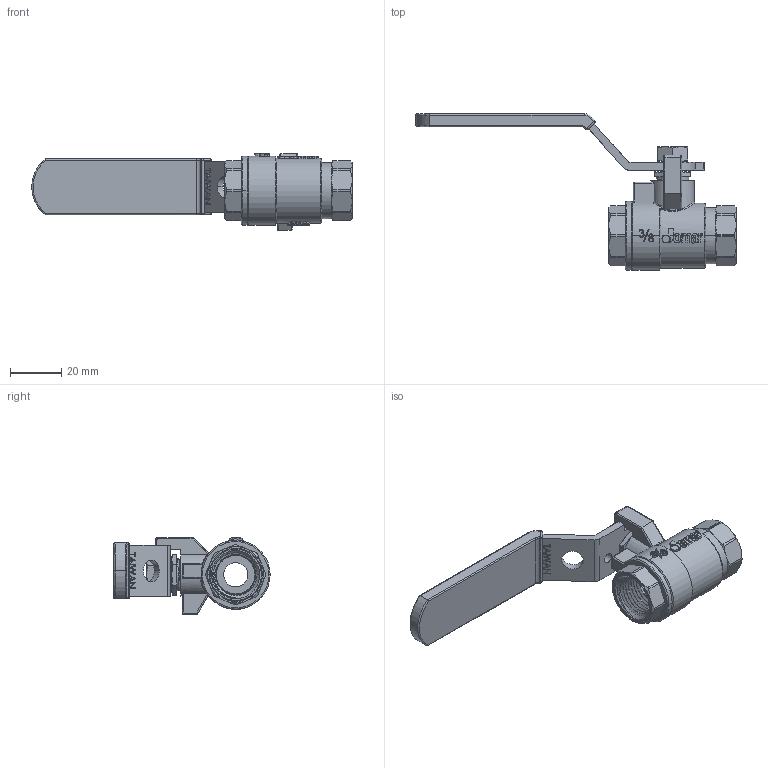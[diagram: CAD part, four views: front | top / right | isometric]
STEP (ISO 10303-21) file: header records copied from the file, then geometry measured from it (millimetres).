
FILE_DESCRIPTION (( 'STEP AP203' ), '1' );
FILE_NAME ('ABL722-µL±¾Âê-0.375''''JOMAR²y»ÖÅé²Õ¦X.STEP', '2026-04-13T01:40:46', ( '' ), ( '' ), 'SwSTEP 2.0', 'SolidWorks 2018', '' );
FILE_SCHEMA (( 'CONFIG_CONTROL_DESIGN' ));
Length unit declared in the file: millimetre
Products named in the file (13): RBL261-無鑽孔; NBL262; BBL722A-0.375''''JOMAR球閥八角頭-有鉛插溝; EBL203B; BBL722-0.375''''JOMAR瞴恢砰-Τ筣础肪礚LF; CBL211; EBL201; DN15-CBL723-HANDLE & SLEEVE 組合(黃色T膠套); ABL722-無掛鎖-0.375''''JOMAR球閥體組合; DN15-CBL211黃色膠套-T-200CSS; EBL203A; GBL211; TBL261A
Assembly tree (13 placements, depth 3):
  ABL722-無掛鎖-0.375''''JOMAR球閥體組合
    BBL722-0.375''''JOMAR瞴恢砰-Τ筣础肪礚LF
    EBL203A
    EBL203B
    GBL211
    RBL261-無鑽孔
    BBL722A-0.375''''JOMAR球閥八角頭-有鉛插溝
    NBL262
    EBL201  x2
    TBL261A
    DN15-CBL723-HANDLE & SLEEVE 組合(黃色T膠套)
      CBL211
      DN15-CBL211黃色膠套-T-200CSS
Bounding box: 125.5 x 61.21 x 30 mm (x, y, z)
Volume: 18992.6 mm3; surface area: 30581.2 mm2
Topology: 11 solids, 13 shells, 1495 faces, 4287 edges, 2920 vertices
Faces by surface type: plane 588, bspline 500, cylinder 241, cone 132, torus 22, sphere 12
Entity records: 92481 total; most frequent: CARTESIAN_POINT 56887, ORIENTED_EDGE 8490, DIRECTION 4878, EDGE_CURVE 4247, VERTEX_POINT 2900, LINE 1948, VECTOR 1948, B_SPLINE_CURVE_WITH_KNOTS 1678
